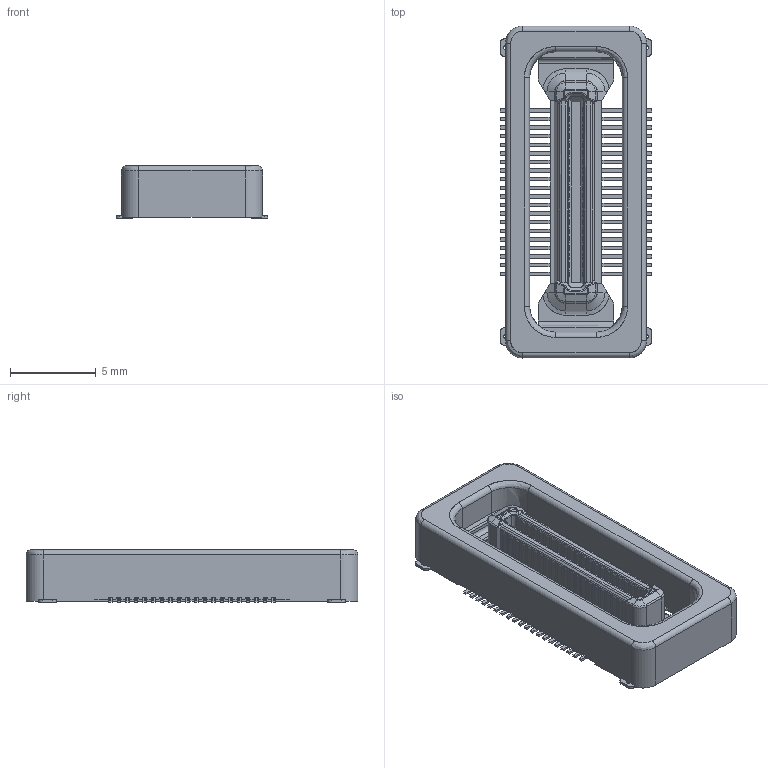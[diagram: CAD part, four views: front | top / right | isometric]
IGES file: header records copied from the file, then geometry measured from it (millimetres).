
Start section: SolidWorks IGES file using analytic representation for surfaces
Global section: file name: Q:\Kamikawa_Hisako\190710\MK_X4_5655_XXX_XXX_829+T\14_5655_XX0_00X_829+T\14_5655_XX0_000_829+T\14_5655_040_000_829+T.IGS; native system: SolidWorks 2017; preprocessor: SolidWorks 2017; author: HISAKO.KAMIKAWA.FJ; date: 190711.102300; units: millimetre
Bounding box: 8.8 x 19.3 x 3.05 mm (x, y, z)
Surface area: 708.1 mm2 (no closed solid volume)
Topology: 0 solids, 0 shells, 1707 faces, 10471 edges, 10471 vertices
Faces by surface type: bspline 1231, revolution 476
